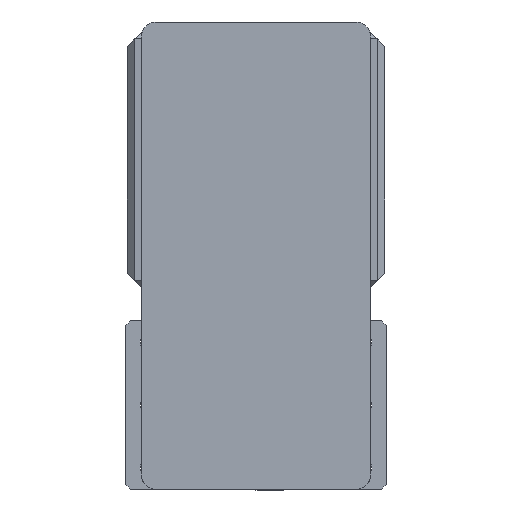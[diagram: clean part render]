
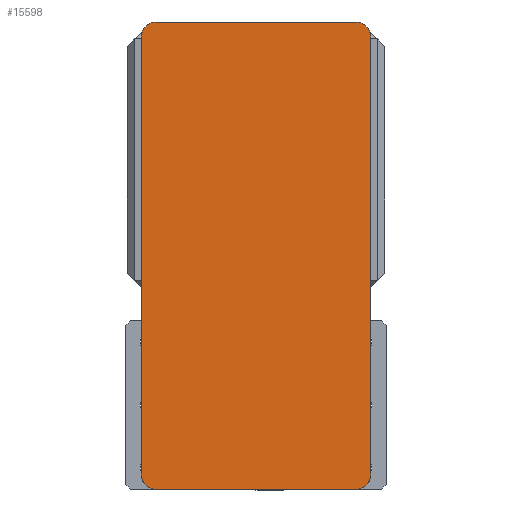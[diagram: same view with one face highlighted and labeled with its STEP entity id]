
A CAD part, left-side view. The second image highlights one B-rep face of the part: STEP entity #15598.
In plain terms, the highlighted planar face has unit normal (-1, 0, 0) as drawn and (0, 0, 1) by its records, which use the part's own axes.
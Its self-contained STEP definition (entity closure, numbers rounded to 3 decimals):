
#135 = ORIENTED_EDGE ( 'NONE', *, *, #21000, .T. ) ;
#819 = DIRECTION ( 'NONE',  ( 1., 0., 0. ) ) ;
#1165 = DIRECTION ( 'NONE',  ( -1., 0., 0. ) ) ;
#1375 = AXIS2_PLACEMENT_3D ( 'NONE', #5135, #17461, #6938 ) ;
#1507 = CARTESIAN_POINT ( 'NONE',  ( 75., 142.5, 105. ) ) ;
#2455 = VECTOR ( 'NONE', #21293, 1000. ) ;
#2923 = CIRCLE ( 'NONE', #9100, 10. ) ;
#2980 = CARTESIAN_POINT ( 'NONE',  ( -65., -152.5, 105. ) ) ;
#3013 = AXIS2_PLACEMENT_3D ( 'NONE', #11082, #7714, #20034 ) ;
#3169 = CARTESIAN_POINT ( 'NONE',  ( 65., -142.5, 105. ) ) ;
#3877 = EDGE_CURVE ( 'NONE', #12362, #21143, #6212, .T. ) ;
#3997 = CIRCLE ( 'NONE', #1375, 10. ) ;
#4060 = LINE ( 'NONE', #22329, #21170 ) ;
#4258 = VERTEX_POINT ( 'NONE', #17565 ) ;
#4969 = DIRECTION ( 'NONE',  ( 1., 0., 0. ) ) ;
#5135 = CARTESIAN_POINT ( 'NONE',  ( -65., -142.5, 105. ) ) ;
#5759 = VERTEX_POINT ( 'NONE', #6909 ) ;
#5848 = PLANE ( 'NONE',  #3013 ) ;
#6212 = LINE ( 'NONE', #14944, #15034 ) ;
#6909 = CARTESIAN_POINT ( 'NONE',  ( -75., 142.5, 105. ) ) ;
#6938 = DIRECTION ( 'NONE',  ( 1., 0., 0. ) ) ;
#7191 = AXIS2_PLACEMENT_3D ( 'NONE', #19414, #8868, #21174 ) ;
#7714 = DIRECTION ( 'NONE',  ( 0., 0., 1. ) ) ;
#8247 = ORIENTED_EDGE ( 'NONE', *, *, #14516, .T. ) ;
#8843 = VECTOR ( 'NONE', #15687, 1000. ) ;
#8868 = DIRECTION ( 'NONE',  ( 0., 0., 1. ) ) ;
#9100 = AXIS2_PLACEMENT_3D ( 'NONE', #3169, #15512, #4969 ) ;
#9380 = LINE ( 'NONE', #12214, #8843 ) ;
#9592 = CIRCLE ( 'NONE', #7191, 10. ) ;
#10032 = CARTESIAN_POINT ( 'NONE',  ( 75., -142.5, 105. ) ) ;
#10760 = CARTESIAN_POINT ( 'NONE',  ( 75., 152.5, 105. ) ) ;
#11082 = CARTESIAN_POINT ( 'NONE',  ( 0., 0., 105. ) ) ;
#11310 = VERTEX_POINT ( 'NONE', #1507 ) ;
#11428 = DIRECTION ( 'NONE',  ( 0., 0., 1. ) ) ;
#12214 = CARTESIAN_POINT ( 'NONE',  ( -75., 152.5, 105. ) ) ;
#12334 = EDGE_CURVE ( 'NONE', #20038, #4258, #4060, .T. ) ;
#12362 = VERTEX_POINT ( 'NONE', #2980 ) ;
#13179 = EDGE_LOOP ( 'NONE', ( #18376, #8247, #135, #18033, #18601, #16756, #20670, #16227 ) ) ;
#13684 = FACE_OUTER_BOUND ( 'NONE', #13179, .T. ) ;
#13879 = EDGE_CURVE ( 'NONE', #11310, #20038, #9592, .T. ) ;
#14516 = EDGE_CURVE ( 'NONE', #21143, #16653, #2923, .T. ) ;
#14944 = CARTESIAN_POINT ( 'NONE',  ( -75., -152.5, 105. ) ) ;
#15034 = VECTOR ( 'NONE', #18490, 1000. ) ;
#15512 = DIRECTION ( 'NONE',  ( 0., 0., 1. ) ) ;
#15598 = ADVANCED_FACE ( 'NONE', ( #13684 ), #5848, .T. ) ;
#15616 = CARTESIAN_POINT ( 'NONE',  ( -75., -142.5, 105. ) ) ;
#15687 = DIRECTION ( 'NONE',  ( 0., -1., 0. ) ) ;
#16059 = VERTEX_POINT ( 'NONE', #15616 ) ;
#16091 = EDGE_CURVE ( 'NONE', #16059, #12362, #3997, .T. ) ;
#16227 = ORIENTED_EDGE ( 'NONE', *, *, #16091, .T. ) ;
#16653 = VERTEX_POINT ( 'NONE', #10032 ) ;
#16756 = ORIENTED_EDGE ( 'NONE', *, *, #20508, .T. ) ;
#16799 = CIRCLE ( 'NONE', #22403, 10. ) ;
#17461 = DIRECTION ( 'NONE',  ( 0., 0., 1. ) ) ;
#17565 = CARTESIAN_POINT ( 'NONE',  ( -65., 152.5, 105. ) ) ;
#17640 = CARTESIAN_POINT ( 'NONE',  ( 65., 152.5, 105. ) ) ;
#18033 = ORIENTED_EDGE ( 'NONE', *, *, #13879, .T. ) ;
#18376 = ORIENTED_EDGE ( 'NONE', *, *, #3877, .T. ) ;
#18490 = DIRECTION ( 'NONE',  ( 1., 0., 0. ) ) ;
#18601 = ORIENTED_EDGE ( 'NONE', *, *, #12334, .T. ) ;
#19414 = CARTESIAN_POINT ( 'NONE',  ( 65., 142.5, 105. ) ) ;
#19919 = CARTESIAN_POINT ( 'NONE',  ( 65., -152.5, 105. ) ) ;
#20034 = DIRECTION ( 'NONE',  ( 1., 0., 0. ) ) ;
#20038 = VERTEX_POINT ( 'NONE', #17640 ) ;
#20508 = EDGE_CURVE ( 'NONE', #4258, #5759, #16799, .T. ) ;
#20670 = ORIENTED_EDGE ( 'NONE', *, *, #20842, .T. ) ;
#20842 = EDGE_CURVE ( 'NONE', #5759, #16059, #9380, .T. ) ;
#21000 = EDGE_CURVE ( 'NONE', #16653, #11310, #21226, .T. ) ;
#21143 = VERTEX_POINT ( 'NONE', #19919 ) ;
#21170 = VECTOR ( 'NONE', #1165, 1000. ) ;
#21174 = DIRECTION ( 'NONE',  ( 1., 0., 0. ) ) ;
#21226 = LINE ( 'NONE', #10760, #2455 ) ;
#21293 = DIRECTION ( 'NONE',  ( 0., 1., 0. ) ) ;
#21977 = CARTESIAN_POINT ( 'NONE',  ( -65., 142.5, 105. ) ) ;
#22329 = CARTESIAN_POINT ( 'NONE',  ( -75., 152.5, 105. ) ) ;
#22403 = AXIS2_PLACEMENT_3D ( 'NONE', #21977, #11428, #819 ) ;
